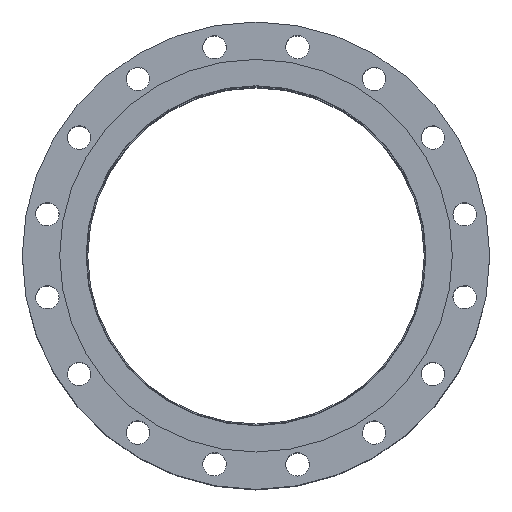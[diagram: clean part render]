
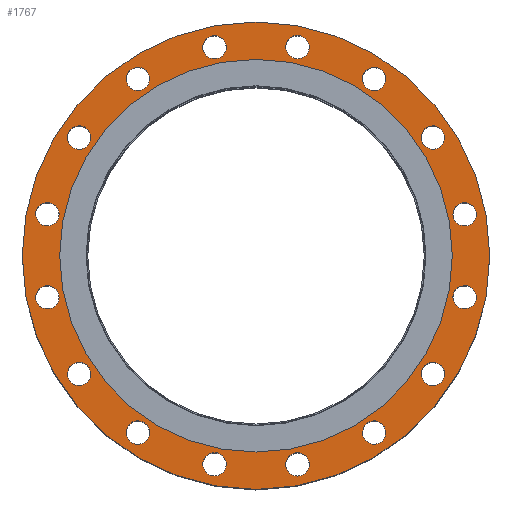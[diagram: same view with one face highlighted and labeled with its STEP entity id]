
A CAD part, top view. The second image highlights one B-rep face of the part: STEP entity #1767.
In plain terms, the highlighted planar face has unit normal (0, 0, 1).
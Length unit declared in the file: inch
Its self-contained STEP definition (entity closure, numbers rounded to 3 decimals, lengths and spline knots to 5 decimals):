
#92=FACE_BOUND('',#451,.T.);
#93=FACE_BOUND('',#452,.T.);
#94=FACE_BOUND('',#453,.T.);
#95=FACE_BOUND('',#454,.T.);
#96=FACE_BOUND('',#455,.T.);
#97=FACE_BOUND('',#456,.T.);
#98=FACE_BOUND('',#457,.T.);
#99=FACE_BOUND('',#458,.T.);
#100=FACE_BOUND('',#459,.T.);
#101=FACE_BOUND('',#460,.T.);
#102=FACE_BOUND('',#461,.T.);
#103=FACE_BOUND('',#462,.T.);
#104=FACE_BOUND('',#463,.T.);
#105=FACE_BOUND('',#464,.T.);
#106=FACE_BOUND('',#465,.T.);
#107=FACE_BOUND('',#466,.T.);
#108=FACE_BOUND('',#467,.T.);
#166=PLANE('',#1996);
#297=FACE_OUTER_BOUND('',#450,.T.);
#450=EDGE_LOOP('',(#1373));
#451=EDGE_LOOP('',(#1374));
#452=EDGE_LOOP('',(#1375));
#453=EDGE_LOOP('',(#1376));
#454=EDGE_LOOP('',(#1377));
#455=EDGE_LOOP('',(#1378));
#456=EDGE_LOOP('',(#1379));
#457=EDGE_LOOP('',(#1380));
#458=EDGE_LOOP('',(#1381));
#459=EDGE_LOOP('',(#1382));
#460=EDGE_LOOP('',(#1383));
#461=EDGE_LOOP('',(#1384));
#462=EDGE_LOOP('',(#1385));
#463=EDGE_LOOP('',(#1386));
#464=EDGE_LOOP('',(#1387));
#465=EDGE_LOOP('',(#1388));
#466=EDGE_LOOP('',(#1389));
#467=EDGE_LOOP('',(#1390));
#679=CIRCLE('',#1927,0.625);
#681=CIRCLE('',#1930,0.625);
#683=CIRCLE('',#1933,0.625);
#685=CIRCLE('',#1936,0.625);
#687=CIRCLE('',#1939,0.625);
#689=CIRCLE('',#1942,0.625);
#691=CIRCLE('',#1945,0.625);
#693=CIRCLE('',#1948,0.625);
#695=CIRCLE('',#1951,0.625);
#697=CIRCLE('',#1954,0.625);
#699=CIRCLE('',#1957,0.625);
#701=CIRCLE('',#1960,0.625);
#703=CIRCLE('',#1963,0.625);
#705=CIRCLE('',#1966,0.625);
#707=CIRCLE('',#1969,0.625);
#709=CIRCLE('',#1972,0.625);
#722=CIRCLE('',#1991,10.5);
#724=CIRCLE('',#1995,12.5);
#883=VERTEX_POINT('',#3022);
#885=VERTEX_POINT('',#3028);
#887=VERTEX_POINT('',#3034);
#889=VERTEX_POINT('',#3040);
#891=VERTEX_POINT('',#3046);
#893=VERTEX_POINT('',#3052);
#895=VERTEX_POINT('',#3058);
#897=VERTEX_POINT('',#3064);
#899=VERTEX_POINT('',#3070);
#901=VERTEX_POINT('',#3076);
#903=VERTEX_POINT('',#3082);
#905=VERTEX_POINT('',#3088);
#907=VERTEX_POINT('',#3094);
#909=VERTEX_POINT('',#3100);
#911=VERTEX_POINT('',#3106);
#913=VERTEX_POINT('',#3112);
#924=VERTEX_POINT('',#3144);
#926=VERTEX_POINT('',#3151);
#1035=EDGE_CURVE('',#883,#883,#679,.T.);
#1038=EDGE_CURVE('',#885,#885,#681,.T.);
#1041=EDGE_CURVE('',#887,#887,#683,.T.);
#1044=EDGE_CURVE('',#889,#889,#685,.T.);
#1047=EDGE_CURVE('',#891,#891,#687,.T.);
#1050=EDGE_CURVE('',#893,#893,#689,.T.);
#1053=EDGE_CURVE('',#895,#895,#691,.T.);
#1056=EDGE_CURVE('',#897,#897,#693,.T.);
#1059=EDGE_CURVE('',#899,#899,#695,.T.);
#1062=EDGE_CURVE('',#901,#901,#697,.T.);
#1065=EDGE_CURVE('',#903,#903,#699,.T.);
#1068=EDGE_CURVE('',#905,#905,#701,.T.);
#1071=EDGE_CURVE('',#907,#907,#703,.T.);
#1074=EDGE_CURVE('',#909,#909,#705,.T.);
#1077=EDGE_CURVE('',#911,#911,#707,.T.);
#1080=EDGE_CURVE('',#913,#913,#709,.T.);
#1096=EDGE_CURVE('',#924,#924,#722,.T.);
#1098=EDGE_CURVE('',#926,#926,#724,.T.);
#1373=ORIENTED_EDGE('',*,*,#1098,.T.);
#1374=ORIENTED_EDGE('',*,*,#1035,.T.);
#1375=ORIENTED_EDGE('',*,*,#1038,.T.);
#1376=ORIENTED_EDGE('',*,*,#1041,.T.);
#1377=ORIENTED_EDGE('',*,*,#1044,.T.);
#1378=ORIENTED_EDGE('',*,*,#1047,.T.);
#1379=ORIENTED_EDGE('',*,*,#1050,.T.);
#1380=ORIENTED_EDGE('',*,*,#1053,.T.);
#1381=ORIENTED_EDGE('',*,*,#1056,.T.);
#1382=ORIENTED_EDGE('',*,*,#1059,.T.);
#1383=ORIENTED_EDGE('',*,*,#1062,.T.);
#1384=ORIENTED_EDGE('',*,*,#1065,.T.);
#1385=ORIENTED_EDGE('',*,*,#1068,.T.);
#1386=ORIENTED_EDGE('',*,*,#1071,.T.);
#1387=ORIENTED_EDGE('',*,*,#1074,.T.);
#1388=ORIENTED_EDGE('',*,*,#1077,.T.);
#1389=ORIENTED_EDGE('',*,*,#1080,.T.);
#1390=ORIENTED_EDGE('',*,*,#1096,.T.);
#1767=ADVANCED_FACE('',(#297,#92,#93,#94,#95,#96,#97,#98,#99,#100,#101,
#102,#103,#104,#105,#106,#107,#108),#166,.T.);
#1927=AXIS2_PLACEMENT_3D('',#3023,#2287,#2288);
#1930=AXIS2_PLACEMENT_3D('',#3029,#2294,#2295);
#1933=AXIS2_PLACEMENT_3D('',#3035,#2301,#2302);
#1936=AXIS2_PLACEMENT_3D('',#3041,#2308,#2309);
#1939=AXIS2_PLACEMENT_3D('',#3047,#2315,#2316);
#1942=AXIS2_PLACEMENT_3D('',#3053,#2322,#2323);
#1945=AXIS2_PLACEMENT_3D('',#3059,#2329,#2330);
#1948=AXIS2_PLACEMENT_3D('',#3065,#2336,#2337);
#1951=AXIS2_PLACEMENT_3D('',#3071,#2343,#2344);
#1954=AXIS2_PLACEMENT_3D('',#3077,#2350,#2351);
#1957=AXIS2_PLACEMENT_3D('',#3083,#2357,#2358);
#1960=AXIS2_PLACEMENT_3D('',#3089,#2364,#2365);
#1963=AXIS2_PLACEMENT_3D('',#3095,#2371,#2372);
#1966=AXIS2_PLACEMENT_3D('',#3101,#2378,#2379);
#1969=AXIS2_PLACEMENT_3D('',#3107,#2385,#2386);
#1972=AXIS2_PLACEMENT_3D('',#3113,#2392,#2393);
#1991=AXIS2_PLACEMENT_3D('',#3146,#2433,#2434);
#1995=AXIS2_PLACEMENT_3D('',#3152,#2441,#2442);
#1996=AXIS2_PLACEMENT_3D('',#3154,#2444,#2445);
#2287=DIRECTION('center_axis',(0.,0.,-1.));
#2288=DIRECTION('ref_axis',(0.924,-0.383,0.));
#2294=DIRECTION('center_axis',(0.,0.,-1.));
#2295=DIRECTION('ref_axis',(0.707,-0.707,0.));
#2301=DIRECTION('center_axis',(0.,0.,-1.));
#2302=DIRECTION('ref_axis',(0.383,-0.924,0.));
#2308=DIRECTION('center_axis',(0.,0.,-1.));
#2309=DIRECTION('ref_axis',(0.,-1.,0.));
#2315=DIRECTION('center_axis',(0.,0.,-1.));
#2316=DIRECTION('ref_axis',(-0.383,-0.924,0.));
#2322=DIRECTION('center_axis',(0.,0.,-1.));
#2323=DIRECTION('ref_axis',(-0.707,-0.707,0.));
#2329=DIRECTION('center_axis',(0.,0.,-1.));
#2330=DIRECTION('ref_axis',(-0.924,-0.383,0.));
#2336=DIRECTION('center_axis',(0.,0.,-1.));
#2337=DIRECTION('ref_axis',(-1.,0.,0.));
#2343=DIRECTION('center_axis',(0.,0.,-1.));
#2344=DIRECTION('ref_axis',(-0.924,0.383,0.));
#2350=DIRECTION('center_axis',(0.,0.,-1.));
#2351=DIRECTION('ref_axis',(-0.707,0.707,0.));
#2357=DIRECTION('center_axis',(0.,0.,-1.));
#2358=DIRECTION('ref_axis',(-0.383,0.924,0.));
#2364=DIRECTION('center_axis',(0.,0.,-1.));
#2365=DIRECTION('ref_axis',(0.,1.,0.));
#2371=DIRECTION('center_axis',(0.,0.,-1.));
#2372=DIRECTION('ref_axis',(0.383,0.924,0.));
#2378=DIRECTION('center_axis',(0.,0.,-1.));
#2379=DIRECTION('ref_axis',(0.707,0.707,0.));
#2385=DIRECTION('center_axis',(0.,0.,-1.));
#2386=DIRECTION('ref_axis',(0.924,0.383,0.));
#2392=DIRECTION('center_axis',(0.,0.,-1.));
#2393=DIRECTION('ref_axis',(1.,0.,0.));
#2433=DIRECTION('center_axis',(0.,0.,-1.));
#2434=DIRECTION('ref_axis',(0.,1.,0.));
#2441=DIRECTION('center_axis',(0.,0.,1.));
#2442=DIRECTION('ref_axis',(1.,0.,0.));
#2444=DIRECTION('center_axis',(0.,0.,1.));
#2445=DIRECTION('ref_axis',(1.,0.,0.));
#3022=CARTESIAN_POINT('',(1.64173,11.39561,0.75));
#3023=CARTESIAN_POINT('Origin',(2.21915,11.15643,0.75));
#3028=CARTESIAN_POINT('',(5.87767,9.89991,0.75));
#3029=CARTESIAN_POINT('Origin',(6.31961,9.45797,0.75));
#3034=CARTESIAN_POINT('',(9.21879,6.89704,0.75));
#3035=CARTESIAN_POINT('Origin',(9.45797,6.31961,0.75));
#3040=CARTESIAN_POINT('',(11.15643,2.84415,0.75));
#3041=CARTESIAN_POINT('Origin',(11.15643,2.21915,0.75));
#3046=CARTESIAN_POINT('',(11.39561,-1.64173,0.75));
#3047=CARTESIAN_POINT('Origin',(11.15643,-2.21915,0.75));
#3052=CARTESIAN_POINT('',(9.89991,-5.87767,0.75));
#3053=CARTESIAN_POINT('Origin',(9.45797,-6.31961,0.75));
#3058=CARTESIAN_POINT('',(6.89704,-9.21879,0.75));
#3059=CARTESIAN_POINT('Origin',(6.31961,-9.45797,0.75));
#3064=CARTESIAN_POINT('',(2.84415,-11.15643,0.75));
#3065=CARTESIAN_POINT('Origin',(2.21915,-11.15643,0.75));
#3070=CARTESIAN_POINT('',(-1.64173,-11.39561,0.75));
#3071=CARTESIAN_POINT('Origin',(-2.21915,-11.15643,0.75));
#3076=CARTESIAN_POINT('',(-5.87767,-9.89991,0.75));
#3077=CARTESIAN_POINT('Origin',(-6.31961,-9.45797,0.75));
#3082=CARTESIAN_POINT('',(-9.21879,-6.89704,0.75));
#3083=CARTESIAN_POINT('Origin',(-9.45797,-6.31961,0.75));
#3088=CARTESIAN_POINT('',(-11.15643,-2.84415,0.75));
#3089=CARTESIAN_POINT('Origin',(-11.15643,-2.21915,0.75));
#3094=CARTESIAN_POINT('',(-11.39561,1.64173,0.75));
#3095=CARTESIAN_POINT('Origin',(-11.15643,2.21915,0.75));
#3100=CARTESIAN_POINT('',(-9.89991,5.87767,0.75));
#3101=CARTESIAN_POINT('Origin',(-9.45797,6.31961,0.75));
#3106=CARTESIAN_POINT('',(-6.89704,9.21879,0.75));
#3107=CARTESIAN_POINT('Origin',(-6.31961,9.45797,0.75));
#3112=CARTESIAN_POINT('',(-2.84415,11.15643,0.75));
#3113=CARTESIAN_POINT('Origin',(-2.21915,11.15643,0.75));
#3144=CARTESIAN_POINT('',(0.,-10.5,0.75));
#3146=CARTESIAN_POINT('Origin',(0.,0.,0.75));
#3151=CARTESIAN_POINT('',(0.,-12.5,0.75));
#3152=CARTESIAN_POINT('Origin',(0.,0.,0.75));
#3154=CARTESIAN_POINT('Origin',(0.,9.09,0.75));
